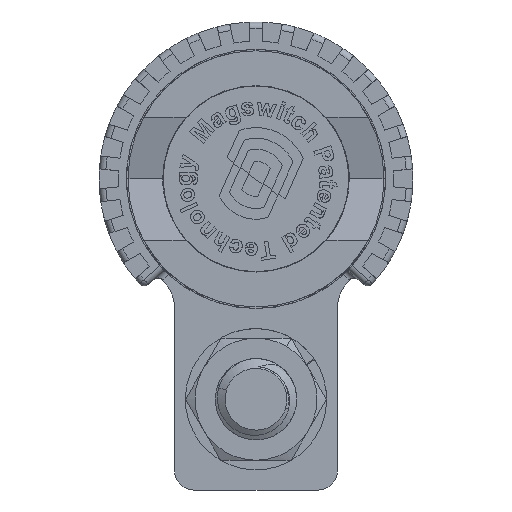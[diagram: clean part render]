
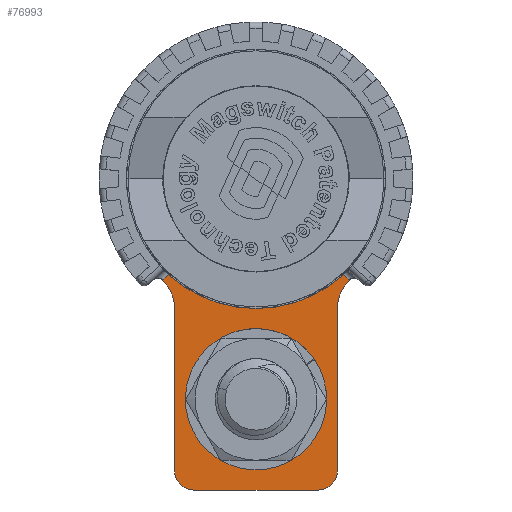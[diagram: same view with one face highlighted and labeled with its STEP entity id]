
A CAD part, front view. The second image highlights one B-rep face of the part: STEP entity #76993.
In plain terms, the highlighted planar face has unit normal (0, -1, 0).
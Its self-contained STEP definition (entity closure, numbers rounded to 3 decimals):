
#791 = AXIS2_PLACEMENT_3D ( 'NONE', #71507, #48560, #77987 ) ;
#1368 = EDGE_CURVE ( 'NONE', #17792, #17381, #83234, .T. ) ;
#2201 = VERTEX_POINT ( 'NONE', #93443 ) ;
#2937 = CARTESIAN_POINT ( 'NONE',  ( 0.558, 4.09, -31.036 ) ) ;
#4609 = EDGE_CURVE ( 'NONE', #7750, #50961, #15549, .T. ) ;
#5150 = ORIENTED_EDGE ( 'NONE', *, *, #56218, .T. ) ;
#5824 = VERTEX_POINT ( 'NONE', #87712 ) ;
#6921 = VERTEX_POINT ( 'NONE', #35149 ) ;
#7750 = VERTEX_POINT ( 'NONE', #42502 ) ;
#9429 = CARTESIAN_POINT ( 'NONE',  ( -18.492, 4.09, -16.931 ) ) ;
#9486 = LINE ( 'NONE', #27410, #68815 ) ;
#10568 = LINE ( 'NONE', #90263, #85697 ) ;
#10580 = EDGE_CURVE ( 'NONE', #17381, #17792, #81705, .T. ) ;
#10604 = DIRECTION ( 'NONE',  ( 0., 0., -1. ) ) ;
#11847 = CIRCLE ( 'NONE', #83719, 20.25 ) ;
#11869 = CARTESIAN_POINT ( 'NONE',  ( -12.142, 4.09, -16.931 ) ) ;
#11964 = DIRECTION ( 'NONE',  ( 0., 1., 0. ) ) ;
#12549 = DIRECTION ( 'NONE',  ( 0., 0., -1. ) ) ;
#12957 = DIRECTION ( 'NONE',  ( 1., 0., 0. ) ) ;
#14526 = CARTESIAN_POINT ( 'NONE',  ( 13.258, 4.09, -16.931 ) ) ;
#15549 = CIRCLE ( 'NONE', #92254, 20.25 ) ;
#15716 = VECTOR ( 'NONE', #12957, 1000. ) ;
#16797 = AXIS2_PLACEMENT_3D ( 'NONE', #74356, #28675, #44290 ) ;
#16901 = DIRECTION ( 'NONE',  ( 0., 1., 0. ) ) ;
#17381 = VERTEX_POINT ( 'NONE', #49965 ) ;
#17419 = CARTESIAN_POINT ( 'NONE',  ( -12.142, 4.09, -42.216 ) ) ;
#17792 = VERTEX_POINT ( 'NONE', #46903 ) ;
#19082 = EDGE_CURVE ( 'NONE', #76132, #6921, #22757, .T. ) ;
#19552 = VERTEX_POINT ( 'NONE', #78269 ) ;
#19838 = DIRECTION ( 'NONE',  ( 0., 0., -1. ) ) ;
#20396 = AXIS2_PLACEMENT_3D ( 'NONE', #80011, #57002, #10604 ) ;
#21438 = LINE ( 'NONE', #11869, #86817 ) ;
#22757 = CIRCLE ( 'NONE', #52336, 6.35 ) ;
#24240 = ORIENTED_EDGE ( 'NONE', *, *, #62583, .T. ) ;
#24743 = ORIENTED_EDGE ( 'NONE', *, *, #49238, .T. ) ;
#25872 = PLANE ( 'NONE',  #20396 ) ;
#26055 = EDGE_CURVE ( 'NONE', #46512, #5824, #88284, .T. ) ;
#27410 = CARTESIAN_POINT ( 'NONE',  ( -14.759, 4.09, -13.098 ) ) ;
#28675 = DIRECTION ( 'NONE',  ( 0., 1., 0. ) ) ;
#29196 = ORIENTED_EDGE ( 'NONE', *, *, #93863, .T. ) ;
#31113 = ORIENTED_EDGE ( 'NONE', *, *, #68797, .T. ) ;
#31309 = CARTESIAN_POINT ( 'NONE',  ( 10.258, 4.09, -42.216 ) ) ;
#33349 = LINE ( 'NONE', #57870, #95172 ) ;
#34969 = DIRECTION ( 'NONE',  ( 0., 0., -1. ) ) ;
#35149 = CARTESIAN_POINT ( 'NONE',  ( 15.131, 4.09, -12.428 ) ) ;
#35391 = CARTESIAN_POINT ( 'NONE',  ( 0.558, 4.09, 3.384 ) ) ;
#35467 = CARTESIAN_POINT ( 'NONE',  ( 13.258, 4.09, -42.216 ) ) ;
#37836 = EDGE_LOOP ( 'NONE', ( #87544, #87408 ) ) ;
#38584 = EDGE_CURVE ( 'NONE', #2201, #19552, #9486, .T. ) ;
#38674 = FACE_OUTER_BOUND ( 'NONE', #84431, .T. ) ;
#41326 = DIRECTION ( 'NONE',  ( 0., 0., 1. ) ) ;
#42502 = CARTESIAN_POINT ( 'NONE',  ( 0.558, 4.09, -16.866 ) ) ;
#43609 = LINE ( 'NONE', #59328, #15716 ) ;
#44020 = VERTEX_POINT ( 'NONE', #46720 ) ;
#44290 = DIRECTION ( 'NONE',  ( 0., 0., 1. ) ) ;
#46443 = CARTESIAN_POINT ( 'NONE',  ( 14.195, 4.09, -11.585 ) ) ;
#46512 = VERTEX_POINT ( 'NONE', #17419 ) ;
#46720 = CARTESIAN_POINT ( 'NONE',  ( -12.142, 4.09, -16.931 ) ) ;
#46903 = CARTESIAN_POINT ( 'NONE',  ( 0.558, 4.09, -37.536 ) ) ;
#47031 = ORIENTED_EDGE ( 'NONE', *, *, #87925, .F. ) ;
#48560 = DIRECTION ( 'NONE',  ( 0., -1., 0. ) ) ;
#49238 = EDGE_CURVE ( 'NONE', #19552, #44020, #97100, .T. ) ;
#49751 = VERTEX_POINT ( 'NONE', #76930 ) ;
#49965 = CARTESIAN_POINT ( 'NONE',  ( 0.558, 4.09, -24.536 ) ) ;
#50961 = VERTEX_POINT ( 'NONE', #46443 ) ;
#51350 = AXIS2_PLACEMENT_3D ( 'NONE', #31309, #76967, #68828 ) ;
#51531 = CARTESIAN_POINT ( 'NONE',  ( 19.608, 4.09, -16.931 ) ) ;
#52336 = AXIS2_PLACEMENT_3D ( 'NONE', #51531, #11964, #34969 ) ;
#53483 = EDGE_CURVE ( 'NONE', #5824, #49751, #43609, .T. ) ;
#56218 = EDGE_CURVE ( 'NONE', #44020, #46512, #21438, .T. ) ;
#57002 = DIRECTION ( 'NONE',  ( 0., -1., 0. ) ) ;
#57205 = DIRECTION ( 'NONE',  ( -0.743, 0., -0.669 ) ) ;
#57870 = CARTESIAN_POINT ( 'NONE',  ( 13.258, 4.09, -16.931 ) ) ;
#59096 = DIRECTION ( 'NONE',  ( 0., -1., 0. ) ) ;
#59328 = CARTESIAN_POINT ( 'NONE',  ( -9.142, 4.09, -45.216 ) ) ;
#60155 = ORIENTED_EDGE ( 'NONE', *, *, #53483, .T. ) ;
#61778 = CARTESIAN_POINT ( 'NONE',  ( 0.558, 4.09, 3.384 ) ) ;
#62583 = EDGE_CURVE ( 'NONE', #88200, #76132, #33349, .T. ) ;
#63243 = DIRECTION ( 'NONE',  ( 0., 0., 1. ) ) ;
#67129 = AXIS2_PLACEMENT_3D ( 'NONE', #2937, #86989, #95758 ) ;
#68797 = EDGE_CURVE ( 'NONE', #49751, #88200, #96130, .T. ) ;
#68815 = VECTOR ( 'NONE', #57205, 1000. ) ;
#68828 = DIRECTION ( 'NONE',  ( 0., 0., 1. ) ) ;
#69561 = DIRECTION ( 'NONE',  ( 0., -1., 0. ) ) ;
#69888 = DIRECTION ( 'NONE',  ( 0., 0., -1. ) ) ;
#70282 = ORIENTED_EDGE ( 'NONE', *, *, #4609, .F. ) ;
#70379 = ORIENTED_EDGE ( 'NONE', *, *, #26055, .T. ) ;
#71507 = CARTESIAN_POINT ( 'NONE',  ( -9.142, 4.09, -42.216 ) ) ;
#71661 = ORIENTED_EDGE ( 'NONE', *, *, #19082, .T. ) ;
#74356 = CARTESIAN_POINT ( 'NONE',  ( 0.558, 4.09, -31.036 ) ) ;
#76132 = VERTEX_POINT ( 'NONE', #14526 ) ;
#76930 = CARTESIAN_POINT ( 'NONE',  ( 10.258, 4.09, -45.216 ) ) ;
#76967 = DIRECTION ( 'NONE',  ( 0., -1., 0. ) ) ;
#76993 = ADVANCED_FACE ( 'NONE', ( #79804, #38674 ), #25872, .T. ) ;
#77987 = DIRECTION ( 'NONE',  ( 0., 0., -1. ) ) ;
#78269 = CARTESIAN_POINT ( 'NONE',  ( -14.015, 4.09, -12.428 ) ) ;
#79804 = FACE_BOUND ( 'NONE', #37836, .T. ) ;
#80011 = CARTESIAN_POINT ( 'NONE',  ( 19.608, 4.09, -16.931 ) ) ;
#81705 = CIRCLE ( 'NONE', #67129, 6.5 ) ;
#83234 = CIRCLE ( 'NONE', #16797, 6.5 ) ;
#83719 = AXIS2_PLACEMENT_3D ( 'NONE', #61778, #69561, #69888 ) ;
#84431 = EDGE_LOOP ( 'NONE', ( #71661, #29196, #70282, #47031, #93288, #24743, #5150, #70379, #60155, #31113, #24240 ) ) ;
#85697 = VECTOR ( 'NONE', #98053, 1000. ) ;
#86817 = VECTOR ( 'NONE', #12549, 1000. ) ;
#86989 = DIRECTION ( 'NONE',  ( 0., 1., 0. ) ) ;
#87408 = ORIENTED_EDGE ( 'NONE', *, *, #10580, .T. ) ;
#87544 = ORIENTED_EDGE ( 'NONE', *, *, #1368, .T. ) ;
#87712 = CARTESIAN_POINT ( 'NONE',  ( -9.142, 4.09, -45.216 ) ) ;
#87789 = AXIS2_PLACEMENT_3D ( 'NONE', #9429, #16901, #63243 ) ;
#87925 = EDGE_CURVE ( 'NONE', #2201, #7750, #11847, .T. ) ;
#88200 = VERTEX_POINT ( 'NONE', #35467 ) ;
#88284 = CIRCLE ( 'NONE', #791, 3. ) ;
#90263 = CARTESIAN_POINT ( 'NONE',  ( 14.25, 4.09, -11.635 ) ) ;
#92254 = AXIS2_PLACEMENT_3D ( 'NONE', #35391, #59096, #19838 ) ;
#93288 = ORIENTED_EDGE ( 'NONE', *, *, #38584, .T. ) ;
#93443 = CARTESIAN_POINT ( 'NONE',  ( -13.079, 4.09, -11.585 ) ) ;
#93863 = EDGE_CURVE ( 'NONE', #6921, #50961, #10568, .T. ) ;
#95172 = VECTOR ( 'NONE', #41326, 1000. ) ;
#95758 = DIRECTION ( 'NONE',  ( 0., 0., 1. ) ) ;
#96130 = CIRCLE ( 'NONE', #51350, 3. ) ;
#97100 = CIRCLE ( 'NONE', #87789, 6.35 ) ;
#98053 = DIRECTION ( 'NONE',  ( -0.743, 0., 0.669 ) ) ;
